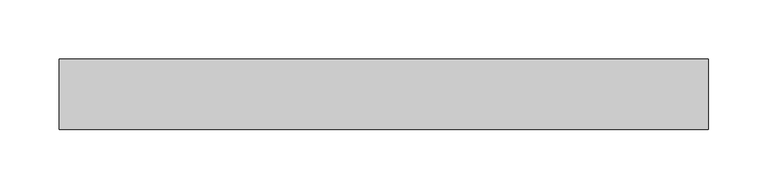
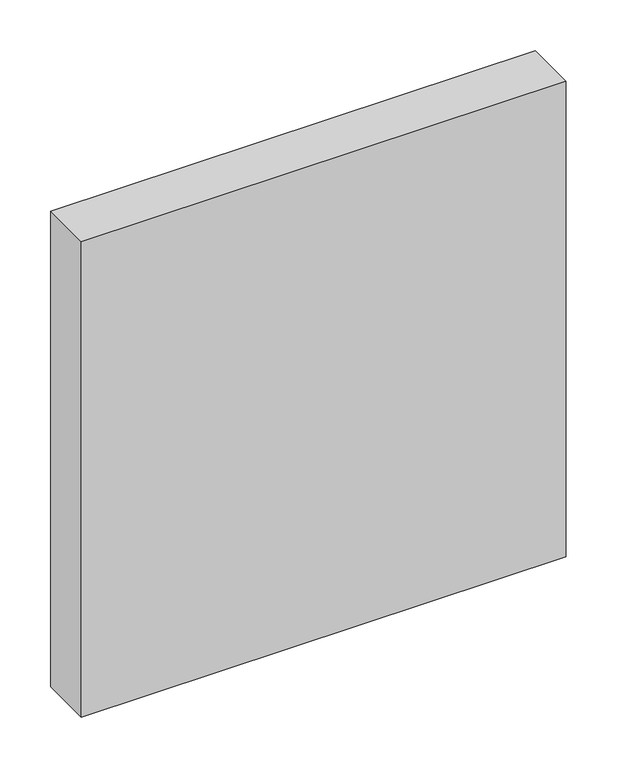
"""IFC4 building model written with IfcOpenShell, lengths in millimetres: plate geometry, Системная панель : Алюкобонд серый."""

from ifc_helpers import new_model, si_unit, origin, origin_with_axes, place, context, project, spatial, polyline, outline, extrude, source, transform, mapped, element, save


def plate_3df002fa(model_context):
    return source(origin(), model_context, "Body", "SweptSolid", [
        extrude(outline(polyline([(275.0, -10.5), (-275.0, -10.5), (-275.0, 49.5), (275.0, 49.5), (275.0, -10.5)])), origin_with_axes(), (0.0, 0.0, 1.0), 570.0),
    ])


if __name__ == "__main__":
    model = new_model("IFC4")
    model_context = context("Model", 3, world=origin())
    ifc_project = project(units=[si_unit("LENGTHUNIT", "METRE", prefix="MILLI")], contexts=[model_context])
    site = spatial("IfcSite", under=ifc_project)
    building = spatial("IfcBuilding", under=site)
    placement = place(None, origin())
    plate_shape = plate_3df002fa(model_context)
    element("IfcPlate", 1, ObjectType="Системная панель : Алюкобонд серый", at=placement, inside=building, context=model_context, shape_type="MappedRepresentation", body=[
        mapped(plate_shape, transform((0.0, 0.0, 0.0), x_axis=(1.0, 0.0, 0.0), y_axis=(0.0, 1.0, 0.0), z_axis=(0.0, 0.0, 1.0))),
    ])
    save(model, "model.ifc")
